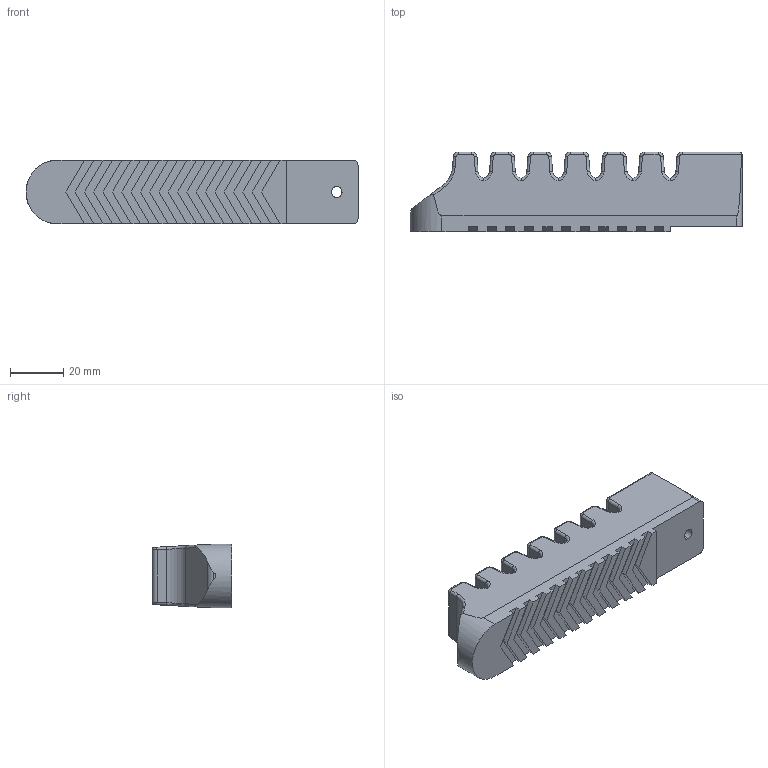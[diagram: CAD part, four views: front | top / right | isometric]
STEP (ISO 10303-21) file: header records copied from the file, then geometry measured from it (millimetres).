
FILE_DESCRIPTION (( 'STEP AP214' ), '1' );
FILE_NAME ('A7.STEP', '2019-12-04T07:38:34', ( '微软用户' ), ( '微软中国' ), 'SwSTEP 2.0', 'SolidWorks 2016', '' );
FILE_SCHEMA (( 'AUTOMOTIVE_DESIGN' ));
Length unit declared in the file: millimetre
Products named in the file (1): A7
Bounding box: 124.7 x 30 x 24 mm (x, y, z)
Volume: 70329.2 mm3; surface area: 16178.6 mm2
Topology: 1 solids, 1 shells, 223 faces, 577 edges, 356 vertices
Faces by surface type: plane 96, cylinder 75, bspline 52
Entity records: 10900 total; most frequent: CARTESIAN_POINT 4056, ORIENTED_EDGE 1154, DIRECTION 865, EDGE_CURVE 577, VERTEX_POINT 356, VECTOR 351, LINE 351, AXIS2_PLACEMENT_3D 257
